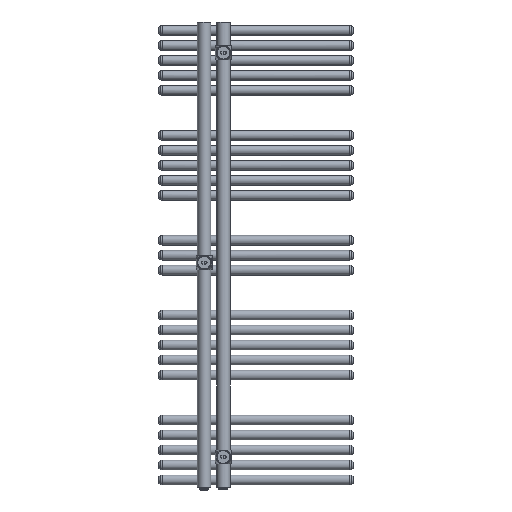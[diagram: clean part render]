
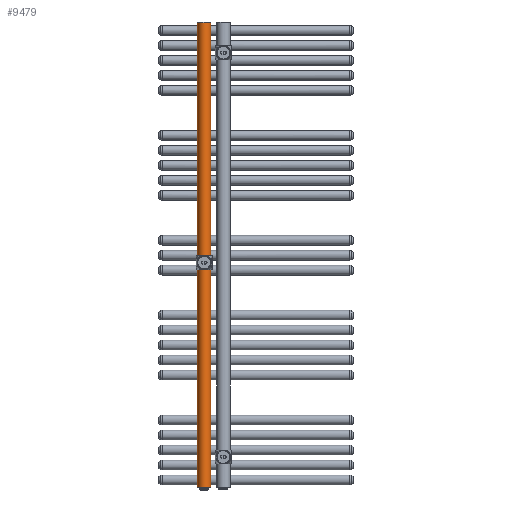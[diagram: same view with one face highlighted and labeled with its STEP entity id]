
A CAD part, front view. The second image highlights one B-rep face of the part: STEP entity #9479.
In plain terms, the highlighted cylindrical face has radius 17.5 mm (diameter 35 mm), a partial arc.
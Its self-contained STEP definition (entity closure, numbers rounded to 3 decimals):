
#3093 = VERTEX_POINT ( 'NONE', #17341 ) ;
#3450 = EDGE_CURVE ( 'NONE', #3093, #10913, #19852, .T. ) ;
#4541 = ORIENTED_EDGE ( 'NONE', *, *, #26224, .T. ) ;
#4975 = DIRECTION ( 'NONE',  ( 1., 0., 0. ) ) ;
#5694 = AXIS2_PLACEMENT_3D ( 'NONE', #31249, #11622, #4975 ) ;
#7284 = AXIS2_PLACEMENT_3D ( 'NONE', #12365, #24687, #21980 ) ;
#7375 = FACE_OUTER_BOUND ( 'NONE', #31588, .T. ) ;
#9479 = ADVANCED_FACE ( 'NONE', ( #7375 ), #29121, .T. ) ;
#10344 = DIRECTION ( 'NONE',  ( 0., 0., -1. ) ) ;
#10812 = LINE ( 'NONE', #22346, #26840 ) ;
#10913 = VERTEX_POINT ( 'NONE', #13419 ) ;
#11622 = DIRECTION ( 'NONE',  ( 0., 0., 1. ) ) ;
#12202 = DIRECTION ( 'NONE',  ( -1., 0., 0. ) ) ;
#12365 = CARTESIAN_POINT ( 'NONE',  ( 0., 0., 1209. ) ) ;
#12889 = CIRCLE ( 'NONE', #5694, 17.5 ) ;
#13275 = ORIENTED_EDGE ( 'NONE', *, *, #16163, .F. ) ;
#13419 = CARTESIAN_POINT ( 'NONE',  ( -17.5, 0., 0. ) ) ;
#13422 = CARTESIAN_POINT ( 'NONE',  ( 17.5, 0., 1209. ) ) ;
#13597 = VERTEX_POINT ( 'NONE', #13422 ) ;
#14619 = CARTESIAN_POINT ( 'NONE',  ( 0., 0., 1209. ) ) ;
#15680 = VERTEX_POINT ( 'NONE', #16571 ) ;
#16163 = EDGE_CURVE ( 'NONE', #3093, #13597, #17014, .T. ) ;
#16571 = CARTESIAN_POINT ( 'NONE',  ( 17.5, 0., 0. ) ) ;
#17014 = CIRCLE ( 'NONE', #7284, 17.5 ) ;
#17341 = CARTESIAN_POINT ( 'NONE',  ( -17.5, 0., 1209. ) ) ;
#18528 = AXIS2_PLACEMENT_3D ( 'NONE', #14619, #24381, #12202 ) ;
#18859 = EDGE_CURVE ( 'NONE', #13597, #15680, #10812, .T. ) ;
#19852 = LINE ( 'NONE', #20154, #26339 ) ;
#20154 = CARTESIAN_POINT ( 'NONE',  ( -17.5, 0., 1209. ) ) ;
#21980 = DIRECTION ( 'NONE',  ( 1., 0., 0. ) ) ;
#22346 = CARTESIAN_POINT ( 'NONE',  ( 17.5, 0., 1209. ) ) ;
#24381 = DIRECTION ( 'NONE',  ( 0., 0., -1. ) ) ;
#24638 = DIRECTION ( 'NONE',  ( 0., 0., -1. ) ) ;
#24687 = DIRECTION ( 'NONE',  ( 0., 0., 1. ) ) ;
#25200 = ORIENTED_EDGE ( 'NONE', *, *, #18859, .F. ) ;
#26224 = EDGE_CURVE ( 'NONE', #10913, #15680, #12889, .T. ) ;
#26339 = VECTOR ( 'NONE', #24638, 1000. ) ;
#26840 = VECTOR ( 'NONE', #10344, 1000. ) ;
#27947 = ORIENTED_EDGE ( 'NONE', *, *, #3450, .T. ) ;
#29121 = CYLINDRICAL_SURFACE ( 'NONE', #18528, 17.5 ) ;
#31249 = CARTESIAN_POINT ( 'NONE',  ( 0., 0., 0. ) ) ;
#31588 = EDGE_LOOP ( 'NONE', ( #25200, #13275, #27947, #4541 ) ) ;
